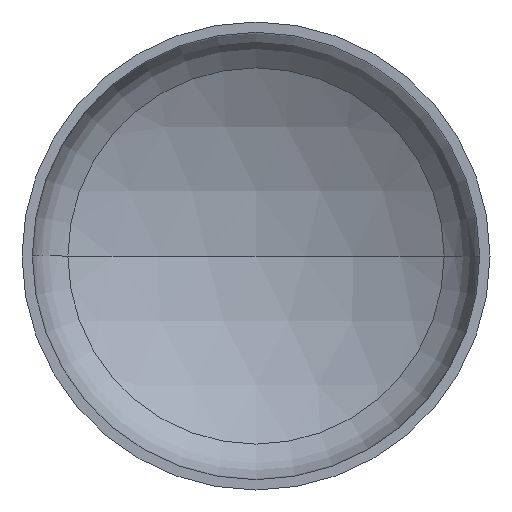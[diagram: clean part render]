
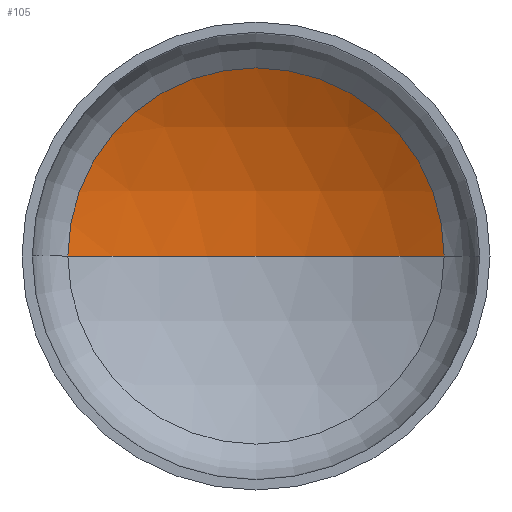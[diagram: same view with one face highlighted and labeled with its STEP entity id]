
A CAD part, front view. The second image highlights one B-rep face of the part: STEP entity #105.
In plain terms, the highlighted spherical face has radius 1520 mm.
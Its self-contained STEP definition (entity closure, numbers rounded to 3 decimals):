
#2 = AXIS2_PLACEMENT_3D ( 'NONE', #246, #364, #222 ) ;
#23 = AXIS2_PLACEMENT_3D ( 'NONE', #336, #394, #39 ) ;
#31 = AXIS2_PLACEMENT_3D ( 'NONE', #176, #179, #182 ) ;
#32 = AXIS2_PLACEMENT_3D ( 'NONE', #323, #321, #315 ) ;
#39 = DIRECTION ( 'NONE',  ( -1., 0., 0. ) ) ;
#62 = EDGE_CURVE ( 'NONE', #181, #111, #407, .T. ) ;
#67 = ORIENTED_EDGE ( 'NONE', *, *, #335, .F. ) ;
#70 = EDGE_CURVE ( 'NONE', #253, #181, #117, .T. ) ;
#105 = ADVANCED_FACE ( 'NONE', ( #402 ), #333, .F. ) ;
#111 = VERTEX_POINT ( 'NONE', #189 ) ;
#117 = CIRCLE ( 'NONE', #31, 1520. ) ;
#161 = CARTESIAN_POINT ( 'NONE',  ( 0., 586.526, 0. ) ) ;
#176 = CARTESIAN_POINT ( 'NONE',  ( 0., -933.474, 0. ) ) ;
#179 = DIRECTION ( 'NONE',  ( 0., 0., -1. ) ) ;
#181 = VERTEX_POINT ( 'NONE', #217 ) ;
#182 = DIRECTION ( 'NONE',  ( -1., 0., 0. ) ) ;
#189 = CARTESIAN_POINT ( 'NONE',  ( -763.707, 380.738, 0. ) ) ;
#211 = ORIENTED_EDGE ( 'NONE', *, *, #62, .T. ) ;
#217 = CARTESIAN_POINT ( 'NONE',  ( 763.707, 380.738, 0. ) ) ;
#222 = DIRECTION ( 'NONE',  ( 1., 0., 0. ) ) ;
#246 = CARTESIAN_POINT ( 'NONE',  ( 0., -933.474, 0. ) ) ;
#253 = VERTEX_POINT ( 'NONE', #161 ) ;
#315 = DIRECTION ( 'NONE',  ( 1., 0., 0. ) ) ;
#321 = DIRECTION ( 'NONE',  ( 0., -1., 0. ) ) ;
#323 = CARTESIAN_POINT ( 'NONE',  ( 0., 380.738, 0. ) ) ;
#333 = SPHERICAL_SURFACE ( 'NONE', #23, 1520. ) ;
#335 = EDGE_CURVE ( 'NONE', #253, #111, #365, .T. ) ;
#336 = CARTESIAN_POINT ( 'NONE',  ( 0., -933.474, 0. ) ) ;
#364 = DIRECTION ( 'NONE',  ( 0., 0., 1. ) ) ;
#365 = CIRCLE ( 'NONE', #2, 1520. ) ;
#371 = ORIENTED_EDGE ( 'NONE', *, *, #70, .T. ) ;
#381 = EDGE_LOOP ( 'NONE', ( #67, #371, #211 ) ) ;
#394 = DIRECTION ( 'NONE',  ( 0., 0., -1. ) ) ;
#402 = FACE_OUTER_BOUND ( 'NONE', #381, .T. ) ;
#407 = CIRCLE ( 'NONE', #32, 763.707 ) ;
